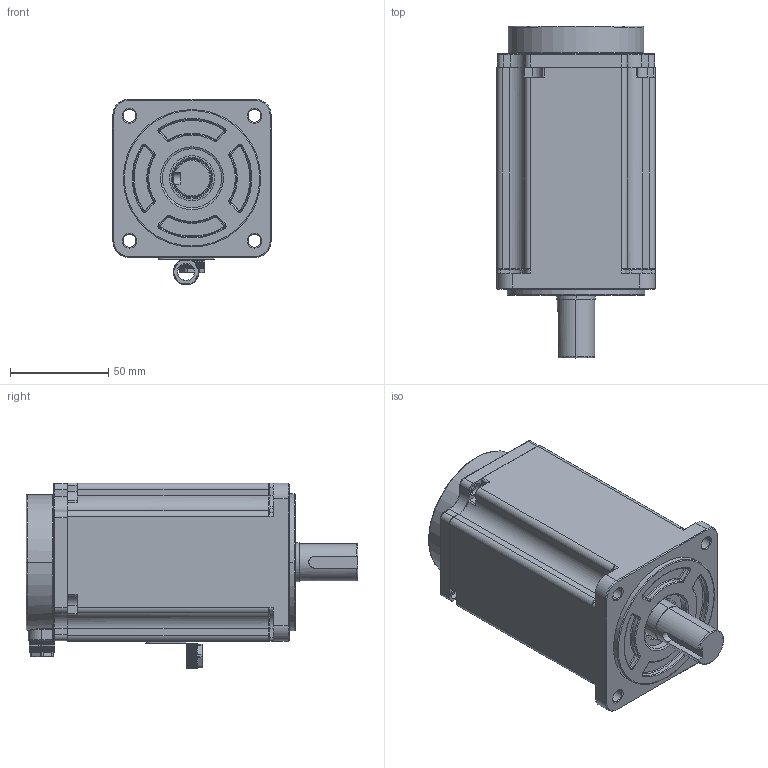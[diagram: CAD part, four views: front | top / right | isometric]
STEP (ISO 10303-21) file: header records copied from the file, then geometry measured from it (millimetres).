
FILE_DESCRIPTION((''),'2;1');
FILE_NAME('80X6-BZ-750W','2022-07-22T',('maxiaochen'),(''),'PRO/ENGINEER BY PARAMETRIC TECHNOLOGY CORPORATION, 2008380','PRO/ENGINEER BY PARAMETRIC TECHNOLOGY CORPORATION, 2008380','');
FILE_SCHEMA(('CONFIG_CONTROL_DESIGN'));
Products named in the file (1): 80X6-BZ-750W
Bounding box: 80.5 x 169 x 94.5 mm (x, y, z)
Volume: 443964.2 mm3; surface area: 175379.3 mm2
Topology: 3 solids, 26 shells, 2767 faces, 6670 edges, 3986 vertices
Faces by surface type: plane 1466, cylinder 839, torus 167, cone 153, sphere 105, bspline 37
Entity records: 80895 total; most frequent: CARTESIAN_POINT 14908, DIRECTION 14613, ORIENTED_EDGE 13332, EDGE_CURVE 6666, AXIS2_PLACEMENT_3D 5308, VECTOR 3997, LINE 3997, VERTEX_POINT 3986
